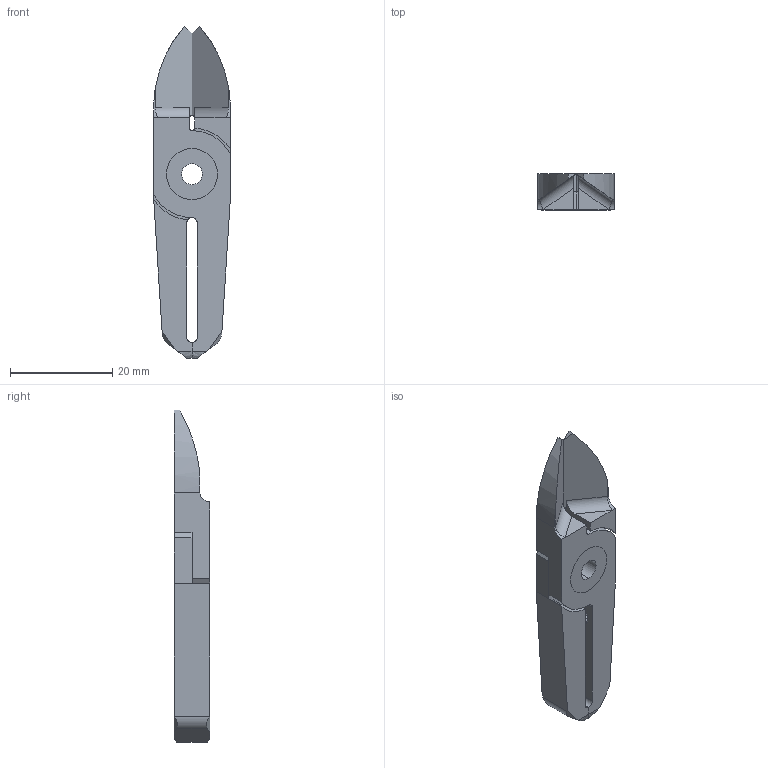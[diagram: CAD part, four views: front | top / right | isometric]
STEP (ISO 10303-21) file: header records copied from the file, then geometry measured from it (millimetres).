
FILE_DESCRIPTION (( 'STEP AP214' ), '1' );
FILE_NAME ('NT05AJH.STEP', '2019-11-28T05:28:21', ( '微软用户' ), ( '微软中国' ), 'SwSTEP 2.0', 'SolidWorks 2016', '' );
FILE_SCHEMA (( 'AUTOMOTIVE_DESIGN' ));
Length unit declared in the file: millimetre
Products named in the file (4): BR2; BR1; BS; NT05AJH
Assembly tree (3 placements, depth 2):
  NT05AJH
    BS
    BR1
    BR2
Bounding box: 15 x 7 x 65 mm (x, y, z)
Volume: 4284.1 mm3; surface area: 4035.4 mm2
Topology: 3 solids, 3 shells, 94 faces, 244 edges, 154 vertices
Faces by surface type: plane 38, cylinder 29, cone 16, bspline 11
Entity records: 3056 total; most frequent: CARTESIAN_POINT 697, ORIENTED_EDGE 480, DIRECTION 448, EDGE_CURVE 240, VERTEX_POINT 154, AXIS2_PLACEMENT_3D 153, LINE 142, VECTOR 142
